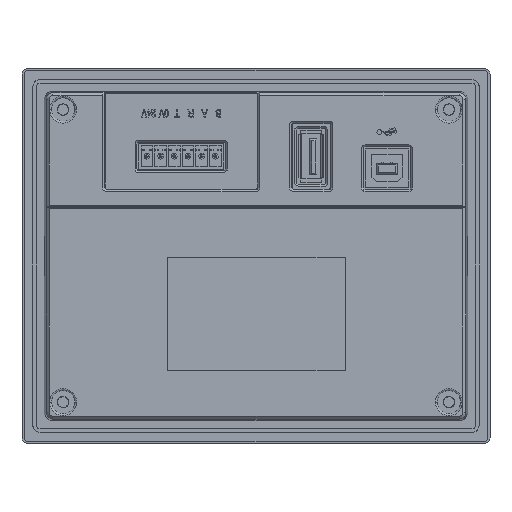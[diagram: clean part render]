
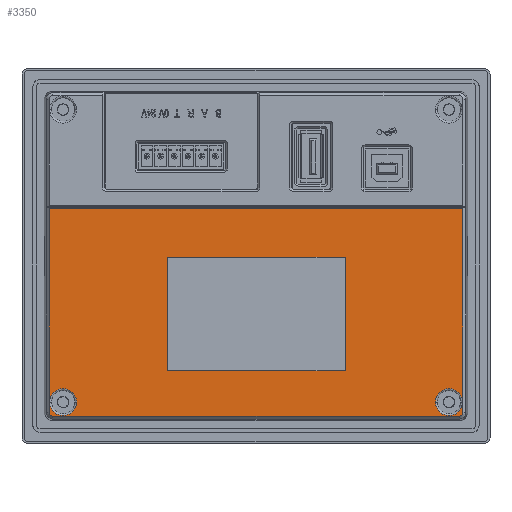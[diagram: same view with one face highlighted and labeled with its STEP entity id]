
A CAD part, top view. The second image highlights one B-rep face of the part: STEP entity #3350.
In plain terms, the highlighted planar face has unit normal (0, 0, 1).
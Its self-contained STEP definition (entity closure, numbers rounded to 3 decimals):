
#897=FACE_BOUND('',#9625,.T.);
#898=FACE_BOUND('',#9626,.T.);
#899=FACE_BOUND('',#9627,.T.);
#3350=ADVANCED_FACE('',(#6424,#897,#898,#899),#52163,.T.);
#6424=FACE_OUTER_BOUND('',#9624,.T.);
#9624=EDGE_LOOP('',(#23849,#23850,#23851,#23852,#23853,#23854));
#9625=EDGE_LOOP('',(#23855,#23856));
#9626=EDGE_LOOP('',(#23857,#23858,#23859,#23860));
#9627=EDGE_LOOP('',(#23861,#23862));
#23849=ORIENTED_EDGE('',*,*,#33938,.T.);
#23850=ORIENTED_EDGE('',*,*,#33939,.T.);
#23851=ORIENTED_EDGE('',*,*,#33940,.T.);
#23852=ORIENTED_EDGE('',*,*,#33941,.T.);
#23853=ORIENTED_EDGE('',*,*,#33942,.T.);
#23854=ORIENTED_EDGE('',*,*,#33943,.T.);
#23855=ORIENTED_EDGE('',*,*,#34558,.T.);
#23856=ORIENTED_EDGE('',*,*,#34753,.T.);
#23857=ORIENTED_EDGE('',*,*,#33947,.T.);
#23858=ORIENTED_EDGE('',*,*,#33944,.T.);
#23859=ORIENTED_EDGE('',*,*,#33945,.T.);
#23860=ORIENTED_EDGE('',*,*,#33946,.T.);
#23861=ORIENTED_EDGE('',*,*,#34556,.T.);
#23862=ORIENTED_EDGE('',*,*,#34752,.T.);
#33938=EDGE_CURVE('',#48540,#48541,#43043,.T.);
#33939=EDGE_CURVE('',#48541,#48542,#43044,.T.);
#33940=EDGE_CURVE('',#48542,#48543,#43045,.T.);
#33941=EDGE_CURVE('',#48543,#48544,#43046,.T.);
#33942=EDGE_CURVE('',#48544,#48545,#43047,.T.);
#33943=EDGE_CURVE('',#48545,#48540,#43048,.T.);
#33944=EDGE_CURVE('',#48548,#48549,#43049,.T.);
#33945=EDGE_CURVE('',#48549,#48550,#43050,.T.);
#33946=EDGE_CURVE('',#48550,#48551,#43051,.T.);
#33947=EDGE_CURVE('',#48551,#48548,#43052,.T.);
#34556=EDGE_CURVE('',#48553,#48552,#37343,.T.);
#34558=EDGE_CURVE('',#48547,#48546,#37345,.T.);
#34752=EDGE_CURVE('',#48552,#48553,#37422,.T.);
#34753=EDGE_CURVE('',#48546,#48547,#37423,.T.);
#37343=(
BOUNDED_CURVE()
B_SPLINE_CURVE(2,(#102252,#102253,#102254,#102255,#102256),
 .UNSPECIFIED.,.F.,.F.)
B_SPLINE_CURVE_WITH_KNOTS((3,2,3),(-23.562,-17.671,
-11.781),.UNSPECIFIED.)
CURVE()
GEOMETRIC_REPRESENTATION_ITEM()
RATIONAL_B_SPLINE_CURVE((1.,0.707,1.,0.707,1.))
REPRESENTATION_ITEM('')
);
#37345=(
BOUNDED_CURVE()
B_SPLINE_CURVE(2,(#102260,#102261,#102262,#102263,#102264),
 .UNSPECIFIED.,.F.,.F.)
B_SPLINE_CURVE_WITH_KNOTS((3,2,3),(-11.781,-5.89,
0.),.UNSPECIFIED.)
CURVE()
GEOMETRIC_REPRESENTATION_ITEM()
RATIONAL_B_SPLINE_CURVE((1.,0.707,1.,0.707,1.))
REPRESENTATION_ITEM('')
);
#37422=(
BOUNDED_CURVE()
B_SPLINE_CURVE(2,(#102797,#102798,#102799,#102800,#102801),
 .UNSPECIFIED.,.F.,.F.)
B_SPLINE_CURVE_WITH_KNOTS((3,2,3),(-11.781,-5.89,
0.),.UNSPECIFIED.)
CURVE()
GEOMETRIC_REPRESENTATION_ITEM()
RATIONAL_B_SPLINE_CURVE((1.,0.707,1.,0.707,1.))
REPRESENTATION_ITEM('')
);
#37423=(
BOUNDED_CURVE()
B_SPLINE_CURVE(2,(#102802,#102803,#102804,#102805,#102806),
 .UNSPECIFIED.,.F.,.F.)
B_SPLINE_CURVE_WITH_KNOTS((3,2,3),(-23.562,-17.671,
-11.781),.UNSPECIFIED.)
CURVE()
GEOMETRIC_REPRESENTATION_ITEM()
RATIONAL_B_SPLINE_CURVE((1.,0.707,1.,0.707,1.))
REPRESENTATION_ITEM('')
);
#43043=B_SPLINE_CURVE_WITH_KNOTS('',1,(#100577,#100578),.UNSPECIFIED.,.F.,
 .F.,(2,2),(0.,56.664),.UNSPECIFIED.);
#43044=B_SPLINE_CURVE_WITH_KNOTS('',1,(#100579,#100580),.UNSPECIFIED.,.F.,
 .F.,(2,2),(0.,115.219),.UNSPECIFIED.);
#43045=B_SPLINE_CURVE_WITH_KNOTS('',1,(#100581,#100582),.UNSPECIFIED.,.F.,
 .F.,(2,2),(0.,56.664),.UNSPECIFIED.);
#43046=B_SPLINE_CURVE_WITH_KNOTS('',3,(#100583,#100584,#100585,#100586),
 .UNSPECIFIED.,.F.,.F.,(4,4),(0.,1.884),.UNSPECIFIED.);
#43047=B_SPLINE_CURVE_WITH_KNOTS('',1,(#100587,#100588),.UNSPECIFIED.,.F.,
 .F.,(2,2),(0.,113.062),.UNSPECIFIED.);
#43048=B_SPLINE_CURVE_WITH_KNOTS('',3,(#100589,#100590,#100591,#100592),
 .UNSPECIFIED.,.F.,.F.,(4,4),(0.,1.884),.UNSPECIFIED.);
#43049=B_SPLINE_CURVE_WITH_KNOTS('',1,(#100593,#100594),.UNSPECIFIED.,.F.,
 .F.,(2,2),(0.,31.5),.UNSPECIFIED.);
#43050=B_SPLINE_CURVE_WITH_KNOTS('',1,(#100595,#100596),.UNSPECIFIED.,.F.,
 .F.,(2,2),(0.,49.5),.UNSPECIFIED.);
#43051=B_SPLINE_CURVE_WITH_KNOTS('',1,(#100597,#100598),.UNSPECIFIED.,.F.,
 .F.,(2,2),(0.,31.5),.UNSPECIFIED.);
#43052=B_SPLINE_CURVE_WITH_KNOTS('',1,(#100599,#100600),.UNSPECIFIED.,.F.,
 .F.,(2,2),(0.,49.5),.UNSPECIFIED.);
#48540=VERTEX_POINT('',#99174);
#48541=VERTEX_POINT('',#99175);
#48542=VERTEX_POINT('',#99176);
#48543=VERTEX_POINT('',#99177);
#48544=VERTEX_POINT('',#99178);
#48545=VERTEX_POINT('',#99179);
#48546=VERTEX_POINT('',#99180);
#48547=VERTEX_POINT('',#99181);
#48548=VERTEX_POINT('',#99182);
#48549=VERTEX_POINT('',#99183);
#48550=VERTEX_POINT('',#99184);
#48551=VERTEX_POINT('',#99185);
#48552=VERTEX_POINT('',#99186);
#48553=VERTEX_POINT('',#99187);
#52163=PLANE('',#54009);
#54009=AXIS2_PLACEMENT_3D('',#94055,#55822,$);
#55822=DIRECTION('',(0.,0.,1.));
#94055=CARTESIAN_POINT('',(-69.759,-51.009,29.8));
#99174=CARTESIAN_POINT('',(57.609,-43.531,29.8));
#99175=CARTESIAN_POINT('',(57.609,13.133,29.8));
#99176=CARTESIAN_POINT('',(-57.609,13.133,29.8));
#99177=CARTESIAN_POINT('',(-57.609,-43.531,29.8));
#99178=CARTESIAN_POINT('',(-56.531,-44.609,29.8));
#99179=CARTESIAN_POINT('',(56.531,-44.609,29.8));
#99180=CARTESIAN_POINT('',(49.95,-40.7,29.8));
#99181=CARTESIAN_POINT('',(57.45,-40.7,29.8));
#99182=CARTESIAN_POINT('',(24.809,-0.416,29.8));
#99183=CARTESIAN_POINT('',(24.809,-31.916,29.8));
#99184=CARTESIAN_POINT('',(-24.691,-31.916,29.8));
#99185=CARTESIAN_POINT('',(-24.691,-0.416,29.8));
#99186=CARTESIAN_POINT('',(-57.45,-40.7,29.8));
#99187=CARTESIAN_POINT('',(-49.95,-40.7,29.8));
#100577=CARTESIAN_POINT('',(57.609,-43.531,29.8));
#100578=CARTESIAN_POINT('',(57.609,13.133,29.8));
#100579=CARTESIAN_POINT('',(57.609,13.133,29.8));
#100580=CARTESIAN_POINT('',(-57.609,13.133,29.8));
#100581=CARTESIAN_POINT('',(-57.609,13.133,29.8));
#100582=CARTESIAN_POINT('',(-57.609,-43.531,29.8));
#100583=CARTESIAN_POINT('',(-57.609,-43.531,29.8));
#100584=CARTESIAN_POINT('',(-57.624,-44.107,29.8));
#100585=CARTESIAN_POINT('',(-57.107,-44.624,29.8));
#100586=CARTESIAN_POINT('',(-56.531,-44.609,29.8));
#100587=CARTESIAN_POINT('',(-56.531,-44.609,29.8));
#100588=CARTESIAN_POINT('',(56.531,-44.609,29.8));
#100589=CARTESIAN_POINT('',(56.531,-44.609,29.8));
#100590=CARTESIAN_POINT('',(57.107,-44.624,29.8));
#100591=CARTESIAN_POINT('',(57.624,-44.107,29.8));
#100592=CARTESIAN_POINT('',(57.609,-43.531,29.8));
#100593=CARTESIAN_POINT('',(24.809,-0.416,29.8));
#100594=CARTESIAN_POINT('',(24.809,-31.916,29.8));
#100595=CARTESIAN_POINT('',(24.809,-31.916,29.8));
#100596=CARTESIAN_POINT('',(-24.691,-31.916,29.8));
#100597=CARTESIAN_POINT('',(-24.691,-31.916,29.8));
#100598=CARTESIAN_POINT('',(-24.691,-0.416,29.8));
#100599=CARTESIAN_POINT('',(-24.691,-0.416,29.8));
#100600=CARTESIAN_POINT('',(24.809,-0.416,29.8));
#102252=CARTESIAN_POINT('',(-49.95,-40.7,29.8));
#102253=CARTESIAN_POINT('',(-49.95,-44.45,29.8));
#102254=CARTESIAN_POINT('',(-53.7,-44.45,29.8));
#102255=CARTESIAN_POINT('',(-57.45,-44.45,29.8));
#102256=CARTESIAN_POINT('',(-57.45,-40.7,29.8));
#102260=CARTESIAN_POINT('',(57.45,-40.7,29.8));
#102261=CARTESIAN_POINT('',(57.45,-44.45,29.8));
#102262=CARTESIAN_POINT('',(53.7,-44.45,29.8));
#102263=CARTESIAN_POINT('',(49.95,-44.45,29.8));
#102264=CARTESIAN_POINT('',(49.95,-40.7,29.8));
#102797=CARTESIAN_POINT('',(-57.45,-40.7,29.8));
#102798=CARTESIAN_POINT('',(-57.45,-36.95,29.8));
#102799=CARTESIAN_POINT('',(-53.7,-36.95,29.8));
#102800=CARTESIAN_POINT('',(-49.95,-36.95,29.8));
#102801=CARTESIAN_POINT('',(-49.95,-40.7,29.8));
#102802=CARTESIAN_POINT('',(49.95,-40.7,29.8));
#102803=CARTESIAN_POINT('',(49.95,-36.95,29.8));
#102804=CARTESIAN_POINT('',(53.7,-36.95,29.8));
#102805=CARTESIAN_POINT('',(57.45,-36.95,29.8));
#102806=CARTESIAN_POINT('',(57.45,-40.7,29.8));
